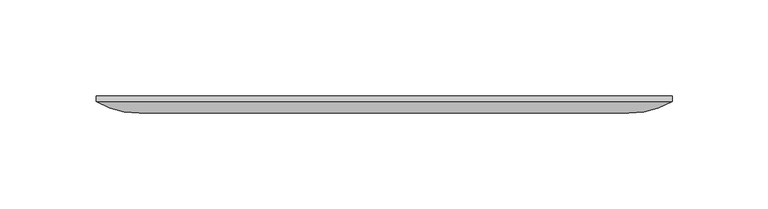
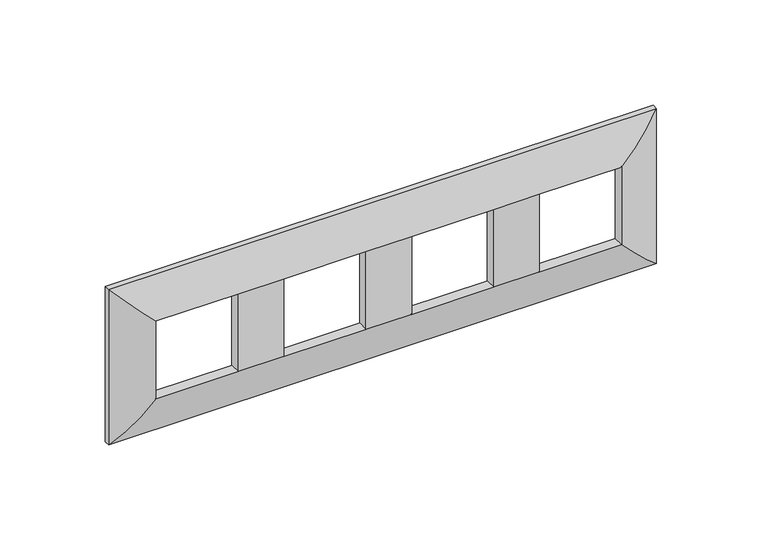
"""IFC4 building model written with IfcOpenShell, lengths in millimetres: proxy geometry."""

from ifc_helpers import new_model, si_unit, frame, origin, place, context, project, spatial, ellipse_curve, source, transform, mapped, element, save
from ifc_brep_helpers import plane_surface, cylinder_surface, advanced_brep


def electrical_fixtures_f1823011(model_context):
    return source(origin(), model_context, "Body", "AdvancedBrep", [
        advanced_brep(
        [(127.5, -3.0, -22.5), (127.5, -9.0, -22.5), (127.5, -9.0, 22.5), (127.5, -3.0, 22.5), (82.5, -9.0, 22.5), (82.5, -3.0, 22.5), (-127.5, -9.0, 22.5), (-127.5, -3.0, 22.5), (-82.5, -3.0, 22.5), (-82.5, -9.0, 22.5), (-57.5, -9.0, 22.5), (-57.5, -3.0, 22.5), (-12.5, -3.0, 22.5), (-12.5, -9.0, 22.5), (12.5, -9.0, 22.5), (12.5, -3.0, 22.5), (57.5, -3.0, 22.5), (57.5, -9.0, 22.5), (-127.5, -9.0, -22.5), (-127.5, -3.0, -22.5), (82.5, -3.0, -22.5), (82.5, -9.0, -22.5), (-82.5, -9.0, -22.5), (-82.5, -3.0, -22.5), (-57.5, -3.0, -22.5), (-57.5, -9.0, -22.5), (-12.5, -9.0, -22.5), (-12.5, -3.0, -22.5), (12.5, -3.0, -22.5), (12.5, -9.0, -22.5), (57.5, -9.0, -22.5), (57.5, -3.0, -22.5), (150.0, 0.0, -45.0), (-150.0, 0.0, -45.0), (-150.0, 0.0, 45.0), (150.0, 0.0, 45.0), (140.5, 0.0, 35.5), (-140.5, 0.0, 35.5), (-140.5, 0.0, -35.5), (140.5, 0.0, -35.5), (150.0, -3.0228771, 45.0), (150.0, -3.0228771, -45.0), (-150.0, -3.0228771, 45.0), (-150.0, -3.0228771, -45.0), (140.5, -3.0, -35.5), (140.5, -3.0, 35.5), (-140.5, -3.0, 35.5), (-140.5, -3.0, -35.5)],
        [
            (0, 1),
            (1, 2),
            (2, 3),
            (3, 0),
            (2, 4),
            (4, 5),
            (5, 3),
            (6, 7),
            (7, 8),
            (8, 9),
            (9, 6),
            (10, 11),
            (11, 12),
            (12, 13),
            (13, 10),
            (14, 15),
            (15, 16),
            (16, 17),
            (17, 14),
            (6, 18),
            (18, 19),
            (19, 7),
            (0, 20),
            (20, 21),
            (21, 1),
            (18, 22),
            (22, 23),
            (23, 19),
            (24, 25),
            (25, 26),
            (26, 27),
            (27, 24),
            (28, 29),
            (29, 30),
            (30, 31),
            (31, 28),
            (32, 33),
            (33, 34),
            (34, 35),
            (35, 32),
            (36, 37),
            (37, 38),
            (38, 39),
            (39, 36),
            (35, 40),
            (40, 41),
            (41, 32),
            (1, 41, ellipse_curve(frame((127.9967238, 34.4676878, -22.9967238), z_axis=(0.7071067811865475, 0.0, 0.7071067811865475), x_axis=(0.7071067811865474, 0.0, -0.7071067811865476)), 61.4766072, 43.4705258)),
            (40, 2, ellipse_curve(frame((127.9967238, 34.4676878, 22.9967238), z_axis=(0.7071067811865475, 0.0, -0.7071067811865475), x_axis=(-0.7071067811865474, 0.0, -0.7071067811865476)), 61.4766072, 43.4705258)),
            (34, 42),
            (42, 40),
            (42, 6, ellipse_curve(frame((-127.9967238, 34.4676878, 22.9967238), z_axis=(0.7071067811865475, 0.0, 0.7071067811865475), x_axis=(0.7071067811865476, 0.0, -0.7071067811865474)), 61.4766072, 43.4705258)),
            (9, 10),
            (13, 14),
            (17, 4),
            (33, 43),
            (43, 42),
            (43, 18, ellipse_curve(frame((-127.9967238, 34.4676878, -22.9967238), z_axis=(-0.7071067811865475, 0.0, 0.7071067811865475), x_axis=(0.7071067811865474, 0.0, 0.7071067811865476)), 61.4766072, 43.4705258)),
            (41, 43),
            (21, 30),
            (29, 26),
            (25, 22),
            (39, 44),
            (44, 45),
            (45, 36),
            (45, 46),
            (46, 37),
            (46, 47),
            (47, 38),
            (44, 47),
            (5, 20),
            (23, 8),
            (31, 16),
            (15, 28),
            (11, 24),
            (27, 12),
            (9, 22),
            (25, 10),
            (13, 26),
            (29, 14),
            (17, 30),
            (21, 4),
        ],
        [
            plane_surface(frame((127.5, -9.0, -22.5), z_axis=(-1.0, 0.0, 0.0), x_axis=(0.0, 0.0, 1.0))),
            plane_surface(frame((127.5, -9.0, 22.5), z_axis=(0.0, 0.0, -1.0), x_axis=(-1.0, 0.0, 0.0))),
            plane_surface(frame((-127.5, -9.0, 22.5), z_axis=(1.0, 0.0, 0.0), x_axis=(0.0, 0.0, -1.0))),
            plane_surface(frame((-127.5, -9.0, -22.5), z_axis=(0.0, 0.0, 1.0), x_axis=(1.0, 0.0, 0.0))),
            plane_surface(frame((-140.5, 0.0, -35.5), z_axis=(0.0, 1.0, 0.0), x_axis=(1.0, 0.0, 0.0))),
            plane_surface(frame((150.0, 0.0, -45.0), z_axis=(1.0, 0.0, 0.0), x_axis=(0.0, 0.0, 1.0))),
            cylinder_surface(frame((127.9967238, 34.4676878, -45.0), z_axis=(0.0, 0.0, -1.0), x_axis=(-1.0, 0.0, 0.0)), 43.4705258),
            plane_surface(frame((150.0, 0.0, 45.0), z_axis=(0.0, 0.0, 1.0), x_axis=(-1.0, 0.0, 0.0))),
            cylinder_surface(frame((150.0, 34.4676878, 22.9967238), z_axis=(1.0, 0.0, 0.0), x_axis=(0.0, 0.0, -1.0)), 43.4705258),
            plane_surface(frame((-150.0, 0.0, 45.0), z_axis=(-1.0, 0.0, 0.0), x_axis=(0.0, 0.0, -1.0))),
            cylinder_surface(frame((-127.9967238, 34.4676878, 45.0), z_axis=(0.0, 0.0, 1.0), x_axis=(1.0, 0.0, 0.0)), 43.4705258),
            plane_surface(frame((-150.0, 0.0, -45.0), z_axis=(0.0, 0.0, -1.0), x_axis=(1.0, 0.0, 0.0))),
            cylinder_surface(frame((-150.0, 34.4676878, -22.9967238), z_axis=(-1.0, 0.0, 0.0), x_axis=(0.0, 0.0, 1.0)), 43.4705258),
            plane_surface(frame((140.5, -3.0, -35.5), z_axis=(-1.0, 0.0, 0.0), x_axis=(0.0, 0.0, 1.0))),
            plane_surface(frame((140.5, -3.0, 35.5), z_axis=(0.0, 0.0, -1.0), x_axis=(-1.0, 0.0, 0.0))),
            plane_surface(frame((-140.5, -3.0, 35.5), z_axis=(1.0, 0.0, 0.0), x_axis=(0.0, 0.0, -1.0))),
            plane_surface(frame((-127.5, -3.0, -22.5), z_axis=(0.0, 1.0, 0.0), x_axis=(1.0, 0.0, 0.0))),
            plane_surface(frame((-140.5, -3.0, -35.5), z_axis=(0.0, 0.0, 1.0), x_axis=(1.0, 0.0, 0.0))),
            plane_surface(frame((-82.5, -9.0, 22.5), z_axis=(0.0, -1.0, 0.0), x_axis=(-1.0, 0.0, 0.0))),
            plane_surface(frame((-82.5, -9.0, 22.5), z_axis=(-1.0, 0.0, 0.0), x_axis=(0.0, 1.0, 0.0))),
            plane_surface(frame((-57.5, -9.0, -22.5), z_axis=(1.0, 0.0, 0.0), x_axis=(0.0, 1.0, 0.0))),
            plane_surface(frame((22.5, -9.0, 22.5), z_axis=(0.0, -1.0, 0.0), x_axis=(-1.0, 0.0, 0.0))),
            plane_surface(frame((-12.5, -9.0, 22.5), z_axis=(-1.0, 0.0, 0.0), x_axis=(0.0, 1.0, 0.0))),
            plane_surface(frame((12.5, -9.0, -22.5), z_axis=(1.0, 0.0, 0.0), x_axis=(0.0, 1.0, 0.0))),
            plane_surface(frame((57.5, -9.0, 22.5), z_axis=(-1.0, 0.0, 0.0), x_axis=(0.0, 1.0, 0.0))),
            plane_surface(frame((82.5, -9.0, -22.5), z_axis=(1.0, 0.0, 0.0), x_axis=(0.0, 1.0, 0.0))),
        ],
        [
            (0, [[1, 2, 3, 4]]),
            (1, [[-3, 5, 6, 7]]),
            (1, [[8, 9, 10, 11]]),
            (1, [[12, 13, 14, 15]]),
            (1, [[16, 17, 18, 19]]),
            (2, [[-8, 20, 21, 22]]),
            (3, [[-1, 23, 24, 25]]),
            (3, [[-21, 26, 27, 28]]),
            (3, [[29, 30, 31, 32]]),
            (3, [[33, 34, 35, 36]]),
            (4, [[37, 38, 39, 40], [41, 42, 43, 44]]),
            (5, [[-40, 45, 46, 47]]),
            (6, [[-2, 48, -46, 49]]),
            (7, [[-39, 50, 51, -45]]),
            (8, [[-49, -51, 52, -11, 53, -15, 54, -19, 55, -5]]),
            (9, [[-38, 56, 57, -50]]),
            (10, [[-20, -52, -57, 58]]),
            (11, [[-37, -47, 59, -56]]),
            (12, [[-48, -25, 60, -34, 61, -30, 62, -26, -58, -59]]),
            (13, [[-44, 63, 64, 65]]),
            (14, [[-41, -65, 66, 67]]),
            (15, [[-42, -67, 68, 69]]),
            (16, [[-64, 70, -68, -66], [-4, -7, 71, -23], [-22, -28, 72, -9], [-36, 73, -17, 74], [75, -32, 76, -13]]),
            (17, [[-43, -69, -70, -63]]),
            (18, [[77, -62, 78, -53]]),
            (19, [[-77, -10, -72, -27]]),
            (20, [[-78, -29, -75, -12]]),
            (21, [[79, -61, 80, -54]]),
            (22, [[-79, -14, -76, -31]]),
            (23, [[-80, -33, -74, -16]]),
            (21, [[81, -60, 82, -55]]),
            (24, [[-81, -18, -73, -35]]),
            (25, [[-82, -24, -71, -6]]),
        ],
    ),
    ])


if __name__ == "__main__":
    model = new_model("IFC4")
    model_context = context("Model", 3, world=origin())
    ifc_project = project(units=[si_unit("LENGTHUNIT", "METRE", prefix="MILLI")], contexts=[model_context])
    site = spatial("IfcSite", under=ifc_project)
    building = spatial("IfcBuilding", under=site)
    placement = place(None, origin())
    electrical_fixtures_shape = electrical_fixtures_f1823011(model_context)
    element("IfcBuildingElementProxy", 1, Name="Electrical Fixtures", at=placement, inside=building, context=model_context, shape_type="MappedRepresentation", body=[
        mapped(electrical_fixtures_shape, transform((0.0, 0.0, 0.0), x_axis=(1.0, 0.0, 0.0), y_axis=(0.0, 1.0, 0.0), z_axis=(0.0, 0.0, 1.0))),
    ])
    save(model, "model.ifc")
